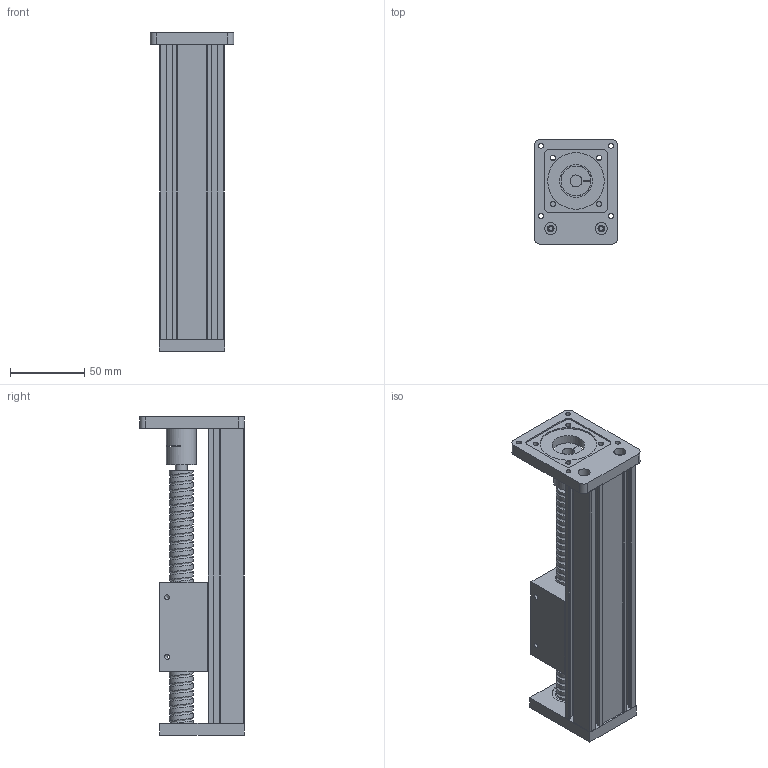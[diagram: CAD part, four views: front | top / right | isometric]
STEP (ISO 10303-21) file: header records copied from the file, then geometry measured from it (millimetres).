
FILE_DESCRIPTION(/* description */ (''),/* implementation_level */ '2;1');
FILE_NAME(/* name */ 'SGX-100.stp',/* time_stamp */ '2025-11-03T15:00:55+08:00',/* author */ (''),/* organization */ (''),/* preprocessor_version */ 'ST-DEVELOPER v20',/* originating_system */ 'SIEMENS PLM Software NX2312.1700',/* authorisation */ '');
FILE_SCHEMA (('AUTOMOTIVE_DESIGN { 1 0 10303 214 3 1 1 1 }'));
Length unit declared in the file: millimetre
Products named in the file (1): _model1_objects
Bounding box: 56 x 70.5 x 214 mm (x, y, z)
Volume: 267820.2 mm3; surface area: 131933.5 mm2
Topology: 16 solids, 16 shells, 498 faces, 1533 edges, 1066 vertices
Faces by surface type: plane 270, cylinder 141, cone 39, torus 34, sphere 12, bspline 2
Full cylindrical faces by diameter (mm): 2.5 x8, 2.8 x2, 3 x2, 3.3 x14, 3.4 x11, 4 x4, 4.5 x4, 5.5 x2, 6 x11, 6.3 x6, 7 x4, 8 x7, 12.667 x2, 14 x1, 16 x1, 17.333 x2, 18 x1, 22 x3, 27 x1, 38 x1
Entity records: 32462 total; most frequent: CARTESIAN_POINT 19911, ORIENTED_EDGE 2578, DIRECTION 2358, EDGE_CURVE 1289, VERTEX_POINT 992, AXIS2_PLACEMENT_3D 885, EDGE_LOOP 757, LINE 588
